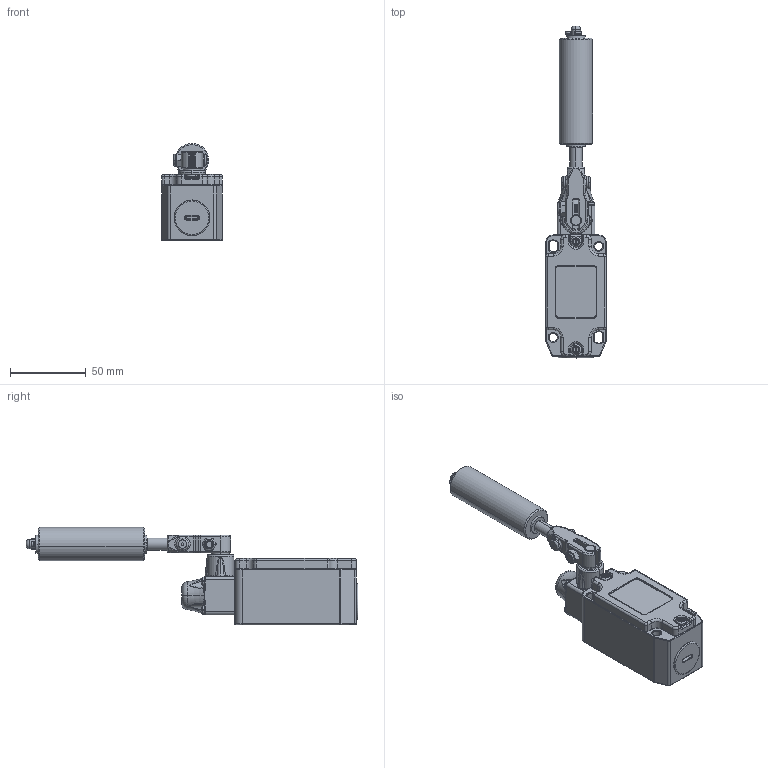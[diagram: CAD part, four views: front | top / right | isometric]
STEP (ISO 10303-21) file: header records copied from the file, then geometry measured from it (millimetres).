
FILE_DESCRIPTION (( 'STEP AP203' ), '1' );
FILE_NAME ('HLM-CBA Die Cast Plastic Roller.STEP', '2024-03-28T12:54:28', ( '' ), ( '' ), 'SwSTEP 2.0', 'SolidWorks 2024', '' );
FILE_SCHEMA (( 'CONFIG_CONTROL_DESIGN' ));
Products named in the file (1): HLM-CBA Die Cast Plastic Roller
Bounding box: 40 x 218.5 x 63.94 mm (x, y, z)
Volume: 102478.5 mm3; surface area: 64408.7 mm2
Topology: 21 solids, 21 shells, 3461 faces, 7949 edges, 4551 vertices
Faces by surface type: cone 1021, cylinder 863, plane 807, torus 477, bspline 228, sphere 65
Entity records: 117143 total; most frequent: CARTESIAN_POINT 39611, DIRECTION 17086, ORIENTED_EDGE 15760, EDGE_CURVE 7880, AXIS2_PLACEMENT_3D 6793, VERTEX_POINT 4551, EDGE_LOOP 3599, CIRCLE 3559
